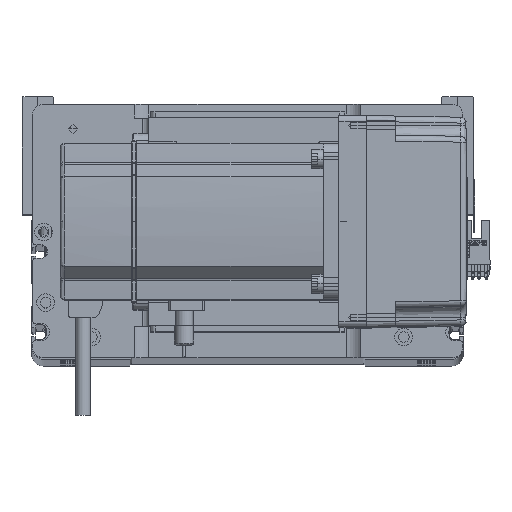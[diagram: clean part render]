
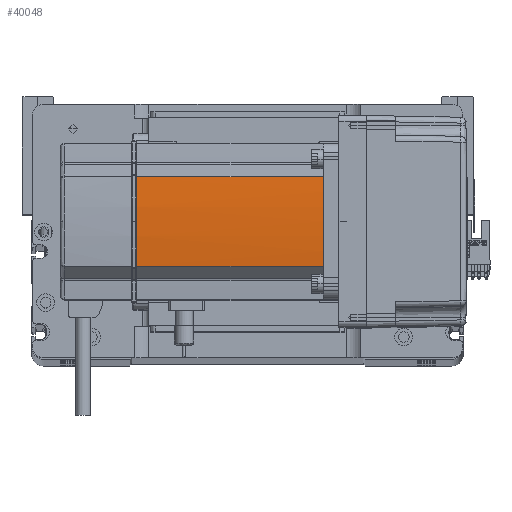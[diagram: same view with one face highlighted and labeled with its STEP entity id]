
A CAD part, top view. The second image highlights one B-rep face of the part: STEP entity #40048.
In plain terms, the highlighted cylindrical face has radius 270 mm (diameter 540 mm), a partial arc.
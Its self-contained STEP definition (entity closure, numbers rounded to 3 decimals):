
#969 = CYLINDRICAL_SURFACE ( 'NONE', #34661, 270. ) ;
#3589 = CARTESIAN_POINT ( 'NONE',  ( 230., 0., 0. ) ) ;
#4655 = LINE ( 'NONE', #50601, #37790 ) ;
#5470 = DIRECTION ( 'NONE',  ( 1., 0., 0. ) ) ;
#6461 = CIRCLE ( 'NONE', #53355, 270. ) ;
#9679 = DIRECTION ( 'NONE',  ( 0., 0., -1. ) ) ;
#10040 = LINE ( 'NONE', #31716, #26038 ) ;
#10140 = AXIS2_PLACEMENT_3D ( 'NONE', #18188, #9679, #5470 ) ;
#10748 = EDGE_CURVE ( 'NONE', #13646, #41481, #4655, .T. ) ;
#10834 = FACE_OUTER_BOUND ( 'NONE', #16435, .T. ) ;
#11220 = CARTESIAN_POINT ( 'NONE',  ( -39.042, 22.724, 39. ) ) ;
#13646 = VERTEX_POINT ( 'NONE', #32979 ) ;
#14181 = ORIENTED_EDGE ( 'NONE', *, *, #29447, .T. ) ;
#14212 = CIRCLE ( 'NONE', #49960, 270. ) ;
#16097 = DIRECTION ( 'NONE',  ( 0., 0., 1. ) ) ;
#16435 = EDGE_LOOP ( 'NONE', ( #48757, #14181, #33648, #29734, #16985 ) ) ;
#16985 = ORIENTED_EDGE ( 'NONE', *, *, #10748, .T. ) ;
#17091 = EDGE_CURVE ( 'NONE', #24295, #29922, #10040, .T. ) ;
#18188 = CARTESIAN_POINT ( 'NONE',  ( 230., 0., 39. ) ) ;
#18621 = CARTESIAN_POINT ( 'NONE',  ( -39.042, -22.724, 134. ) ) ;
#19241 = CARTESIAN_POINT ( 'NONE',  ( -39.042, 22.724, 134. ) ) ;
#20338 = EDGE_CURVE ( 'NONE', #41481, #23009, #6461, .T. ) ;
#20396 = DIRECTION ( 'NONE',  ( 1., 0., 0. ) ) ;
#23009 = VERTEX_POINT ( 'NONE', #51122 ) ;
#23184 = CIRCLE ( 'NONE', #10140, 270. ) ;
#24295 = VERTEX_POINT ( 'NONE', #19241 ) ;
#25072 = DIRECTION ( 'NONE',  ( 0., 0., -1. ) ) ;
#26038 = VECTOR ( 'NONE', #53126, 1000. ) ;
#29447 = EDGE_CURVE ( 'NONE', #23009, #24295, #14212, .T. ) ;
#29532 = DIRECTION ( 'NONE',  ( 0., 0., 1. ) ) ;
#29734 = ORIENTED_EDGE ( 'NONE', *, *, #47676, .F. ) ;
#29922 = VERTEX_POINT ( 'NONE', #11220 ) ;
#30040 = CARTESIAN_POINT ( 'NONE',  ( 230., 0., 134. ) ) ;
#31162 = DIRECTION ( 'NONE',  ( 1., 0., 0. ) ) ;
#31716 = CARTESIAN_POINT ( 'NONE',  ( -39.042, 22.724, 0. ) ) ;
#32979 = CARTESIAN_POINT ( 'NONE',  ( -39.042, -22.724, 39. ) ) ;
#33648 = ORIENTED_EDGE ( 'NONE', *, *, #17091, .T. ) ;
#34661 = AXIS2_PLACEMENT_3D ( 'NONE', #3589, #16097, #20396 ) ;
#35249 = CARTESIAN_POINT ( 'NONE',  ( 230., 0., 134. ) ) ;
#37790 = VECTOR ( 'NONE', #29532, 1000. ) ;
#40048 = ADVANCED_FACE ( 'NONE', ( #10834 ), #969, .T. ) ;
#41481 = VERTEX_POINT ( 'NONE', #18621 ) ;
#47676 = EDGE_CURVE ( 'NONE', #13646, #29922, #23184, .T. ) ;
#47987 = DIRECTION ( 'NONE',  ( 0., 0., -1. ) ) ;
#48757 = ORIENTED_EDGE ( 'NONE', *, *, #20338, .T. ) ;
#49960 = AXIS2_PLACEMENT_3D ( 'NONE', #30040, #25072, #54599 ) ;
#50601 = CARTESIAN_POINT ( 'NONE',  ( -39.042, -22.724, 0. ) ) ;
#51122 = CARTESIAN_POINT ( 'NONE',  ( -40., 0., 134. ) ) ;
#53126 = DIRECTION ( 'NONE',  ( 0., 0., -1. ) ) ;
#53355 = AXIS2_PLACEMENT_3D ( 'NONE', #35249, #47987, #31162 ) ;
#54599 = DIRECTION ( 'NONE',  ( 1., 0., 0. ) ) ;
